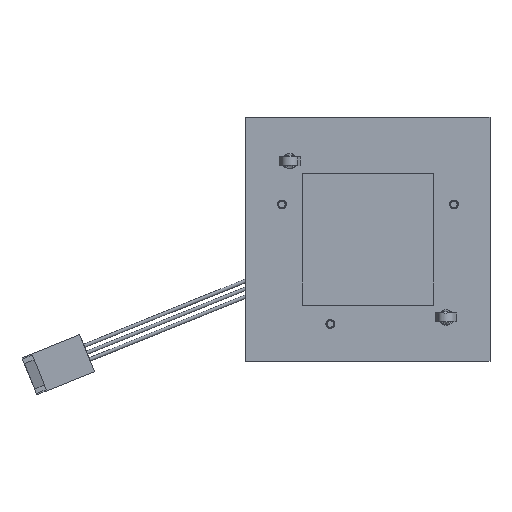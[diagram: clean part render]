
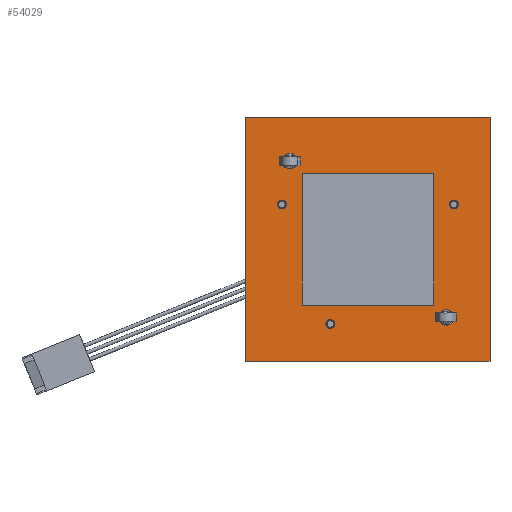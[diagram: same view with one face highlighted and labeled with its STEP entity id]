
A CAD part, front view. The second image highlights one B-rep face of the part: STEP entity #54029.
In plain terms, the highlighted planar face has unit normal (0, -1, 0).
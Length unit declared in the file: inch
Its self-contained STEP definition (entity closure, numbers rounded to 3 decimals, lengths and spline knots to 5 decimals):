
#878 = DIRECTION ( 'NONE',  ( 0., 0., -1. ) ) ;
#1346 = CARTESIAN_POINT ( 'NONE',  ( -0.30425, 0.01969, -0.71879 ) ) ;
#1906 = DIRECTION ( 'NONE',  ( -1., 0., 0. ) ) ;
#2449 = AXIS2_PLACEMENT_3D ( 'NONE', #28586, #33548, #34870 ) ;
#2630 = ORIENTED_EDGE ( 'NONE', *, *, #49613, .F. ) ;
#2792 = VERTEX_POINT ( 'NONE', #19129 ) ;
#3675 = CARTESIAN_POINT ( 'NONE',  ( 0.98425, 0.01969, -0.98425 ) ) ;
#4370 = VERTEX_POINT ( 'NONE', #56921 ) ;
#4502 = CARTESIAN_POINT ( 'NONE',  ( -0.62999, 0.01969, 0.567 ) ) ;
#4923 = ORIENTED_EDGE ( 'NONE', *, *, #31624, .F. ) ;
#4927 = VERTEX_POINT ( 'NONE', #59598 ) ;
#5665 = DIRECTION ( 'NONE',  ( 0., 0., -1. ) ) ;
#5788 = VERTEX_POINT ( 'NONE', #4502 ) ;
#6433 = EDGE_CURVE ( 'NONE', #42809, #5788, #54778, .T. ) ;
#6530 = LINE ( 'NONE', #26615, #54911 ) ;
#7468 = EDGE_CURVE ( 'NONE', #16857, #57358, #36514, .T. ) ;
#7509 = ORIENTED_EDGE ( 'NONE', *, *, #44292, .T. ) ;
#7557 = DIRECTION ( 'NONE',  ( 0., 0., -1. ) ) ;
#7705 = EDGE_LOOP ( 'NONE', ( #61300, #41726 ) ) ;
#8325 = CARTESIAN_POINT ( 'NONE',  ( 0.98425, 0.01969, -0.98425 ) ) ;
#9071 = CARTESIAN_POINT ( 'NONE',  ( 0.69356, 0.01969, 0.24478 ) ) ;
#9587 = EDGE_CURVE ( 'NONE', #23037, #4370, #19191, .T. ) ;
#9640 = LINE ( 'NONE', #3675, #50688 ) ;
#10183 = DIRECTION ( 'NONE',  ( 0., -1., 0. ) ) ;
#10281 = CIRCLE ( 'NONE', #42885, 0.06299 ) ;
#10856 = DIRECTION ( 'NONE',  ( 1., 0., 0. ) ) ;
#11209 = ORIENTED_EDGE ( 'NONE', *, *, #52772, .F. ) ;
#12686 = VECTOR ( 'NONE', #10856, 39.37008 ) ;
#13428 = LINE ( 'NONE', #23900, #16461 ) ;
#14004 = DIRECTION ( 'NONE',  ( 0., 0., 1. ) ) ;
#14468 = DIRECTION ( 'NONE',  ( 0., 0., -1. ) ) ;
#16076 = CIRCLE ( 'NONE', #46511, 0.03543 ) ;
#16461 = VECTOR ( 'NONE', #53564, 39.37008 ) ;
#16857 = VERTEX_POINT ( 'NONE', #60311 ) ;
#18362 = ORIENTED_EDGE ( 'NONE', *, *, #63177, .F. ) ;
#18655 = CARTESIAN_POINT ( 'NONE',  ( -0.30425, 0.01969, -0.68336 ) ) ;
#19129 = CARTESIAN_POINT ( 'NONE',  ( 0.98425, 0.01969, 0.98425 ) ) ;
#19191 = CIRCLE ( 'NONE', #55974, 0.03543 ) ;
#20863 = DIRECTION ( 'NONE',  ( 0., -1., 0. ) ) ;
#21651 = VERTEX_POINT ( 'NONE', #56057 ) ;
#22347 = ORIENTED_EDGE ( 'NONE', *, *, #7468, .T. ) ;
#23037 = VERTEX_POINT ( 'NONE', #45236 ) ;
#23259 = EDGE_CURVE ( 'NONE', #40638, #63113, #16076, .T. ) ;
#23271 = EDGE_LOOP ( 'NONE', ( #23756, #7509, #25429, #22347 ) ) ;
#23453 = DIRECTION ( 'NONE',  ( 0., -1., 0. ) ) ;
#23756 = ORIENTED_EDGE ( 'NONE', *, *, #43751, .T. ) ;
#23825 = FACE_BOUND ( 'NONE', #62682, .T. ) ;
#23900 = CARTESIAN_POINT ( 'NONE',  ( -0.98425, 0.01969, -0.98425 ) ) ;
#24658 = AXIS2_PLACEMENT_3D ( 'NONE', #49715, #10183, #39866 ) ;
#24947 = CARTESIAN_POINT ( 'NONE',  ( 0.62997, 0.01969, -0.62997 ) ) ;
#25429 = ORIENTED_EDGE ( 'NONE', *, *, #48931, .T. ) ;
#26615 = CARTESIAN_POINT ( 'NONE',  ( 0.98425, 0.01969, 0.98425 ) ) ;
#27767 = CIRCLE ( 'NONE', #24658, 0.03543 ) ;
#27999 = CIRCLE ( 'NONE', #53293, 0.06299 ) ;
#28020 = CARTESIAN_POINT ( 'NONE',  ( -0.30425, 0.01969, -0.68336 ) ) ;
#28442 = AXIS2_PLACEMENT_3D ( 'NONE', #57958, #36917, #7557 ) ;
#28449 = CARTESIAN_POINT ( 'NONE',  ( -0.62999, 0.01969, 0.69299 ) ) ;
#28586 = CARTESIAN_POINT ( 'NONE',  ( 0.69356, 0.01969, 0.28022 ) ) ;
#28817 = EDGE_LOOP ( 'NONE', ( #50627, #18362 ) ) ;
#29152 = CARTESIAN_POINT ( 'NONE',  ( -0.30425, 0.01969, -0.64793 ) ) ;
#29556 = VERTEX_POINT ( 'NONE', #43329 ) ;
#29730 = CARTESIAN_POINT ( 'NONE',  ( 0., 0.01969, 0. ) ) ;
#30352 = AXIS2_PLACEMENT_3D ( 'NONE', #29730, #20863, #5665 ) ;
#30448 = CIRCLE ( 'NONE', #43138, 0.06299 ) ;
#31624 = EDGE_CURVE ( 'NONE', #5788, #42809, #30448, .T. ) ;
#31957 = CARTESIAN_POINT ( 'NONE',  ( 0.69356, 0.01969, 0.28022 ) ) ;
#32164 = CARTESIAN_POINT ( 'NONE',  ( 0.69356, 0.01969, 0.31565 ) ) ;
#32277 = DIRECTION ( 'NONE',  ( 0., -1., 0. ) ) ;
#32778 = DIRECTION ( 'NONE',  ( 0., 0., -1. ) ) ;
#33378 = ORIENTED_EDGE ( 'NONE', *, *, #6433, .F. ) ;
#33548 = DIRECTION ( 'NONE',  ( 0., -1., 0. ) ) ;
#33927 = VERTEX_POINT ( 'NONE', #32164 ) ;
#34870 = DIRECTION ( 'NONE',  ( 0., 0., -1. ) ) ;
#35195 = DIRECTION ( 'NONE',  ( 0., -1., 0. ) ) ;
#35604 = CIRCLE ( 'NONE', #53298, 0.03543 ) ;
#35690 = PLANE ( 'NONE',  #30352 ) ;
#36514 = LINE ( 'NONE', #60934, #12686 ) ;
#36917 = DIRECTION ( 'NONE',  ( 0., -1., 0. ) ) ;
#39866 = DIRECTION ( 'NONE',  ( 0., 0., -1. ) ) ;
#40638 = VERTEX_POINT ( 'NONE', #29152 ) ;
#40672 = FACE_BOUND ( 'NONE', #28817, .T. ) ;
#41726 = ORIENTED_EDGE ( 'NONE', *, *, #23259, .F. ) ;
#41928 = DIRECTION ( 'NONE',  ( 0., 0., -1. ) ) ;
#42809 = VERTEX_POINT ( 'NONE', #28449 ) ;
#42885 = AXIS2_PLACEMENT_3D ( 'NONE', #24947, #50980, #878 ) ;
#43138 = AXIS2_PLACEMENT_3D ( 'NONE', #60221, #35195, #50653 ) ;
#43329 = CARTESIAN_POINT ( 'NONE',  ( 0.62997, 0.01969, -0.69296 ) ) ;
#43399 = DIRECTION ( 'NONE',  ( 0., -1., 0. ) ) ;
#43751 = EDGE_CURVE ( 'NONE', #57358, #2792, #9640, .T. ) ;
#43980 = FACE_BOUND ( 'NONE', #61410, .T. ) ;
#44292 = EDGE_CURVE ( 'NONE', #2792, #21651, #6530, .T. ) ;
#44503 = CARTESIAN_POINT ( 'NONE',  ( -0.69356, 0.01969, 0.28022 ) ) ;
#44586 = CIRCLE ( 'NONE', #2449, 0.03543 ) ;
#44651 = ORIENTED_EDGE ( 'NONE', *, *, #59220, .F. ) ;
#45236 = CARTESIAN_POINT ( 'NONE',  ( -0.69356, 0.01969, 0.24478 ) ) ;
#45375 = EDGE_CURVE ( 'NONE', #48899, #33927, #44586, .T. ) ;
#46511 = AXIS2_PLACEMENT_3D ( 'NONE', #18655, #43399, #32778 ) ;
#47359 = EDGE_LOOP ( 'NONE', ( #33378, #4923 ) ) ;
#48202 = DIRECTION ( 'NONE',  ( 0., 0., -1. ) ) ;
#48899 = VERTEX_POINT ( 'NONE', #9071 ) ;
#48909 = FACE_BOUND ( 'NONE', #47359, .T. ) ;
#48931 = EDGE_CURVE ( 'NONE', #21651, #16857, #13428, .T. ) ;
#49236 = EDGE_CURVE ( 'NONE', #63113, #40638, #63784, .T. ) ;
#49613 = EDGE_CURVE ( 'NONE', #29556, #4927, #27999, .T. ) ;
#49715 = CARTESIAN_POINT ( 'NONE',  ( -0.69356, 0.01969, 0.28022 ) ) ;
#49719 = DIRECTION ( 'NONE',  ( 0., -1., 0. ) ) ;
#50062 = AXIS2_PLACEMENT_3D ( 'NONE', #28020, #23453, #48202 ) ;
#50627 = ORIENTED_EDGE ( 'NONE', *, *, #45375, .F. ) ;
#50653 = DIRECTION ( 'NONE',  ( 0., 0., -1. ) ) ;
#50688 = VECTOR ( 'NONE', #14004, 39.37008 ) ;
#50980 = DIRECTION ( 'NONE',  ( 0., -1., 0. ) ) ;
#52772 = EDGE_CURVE ( 'NONE', #4927, #29556, #10281, .T. ) ;
#53293 = AXIS2_PLACEMENT_3D ( 'NONE', #59514, #60163, #14468 ) ;
#53298 = AXIS2_PLACEMENT_3D ( 'NONE', #31957, #32277, #41928 ) ;
#53564 = DIRECTION ( 'NONE',  ( 0., 0., -1. ) ) ;
#54029 = ADVANCED_FACE ( 'NONE', ( #48909, #23825, #43980, #64079, #40672, #60727 ), #35690, .T. ) ;
#54778 = CIRCLE ( 'NONE', #28442, 0.06299 ) ;
#54911 = VECTOR ( 'NONE', #1906, 39.37008 ) ;
#55974 = AXIS2_PLACEMENT_3D ( 'NONE', #44503, #49719, #59591 ) ;
#56057 = CARTESIAN_POINT ( 'NONE',  ( -0.98425, 0.01969, 0.98425 ) ) ;
#56921 = CARTESIAN_POINT ( 'NONE',  ( -0.69356, 0.01969, 0.31565 ) ) ;
#57358 = VERTEX_POINT ( 'NONE', #8325 ) ;
#57958 = CARTESIAN_POINT ( 'NONE',  ( -0.62999, 0.01969, 0.62999 ) ) ;
#59220 = EDGE_CURVE ( 'NONE', #4370, #23037, #27767, .T. ) ;
#59514 = CARTESIAN_POINT ( 'NONE',  ( 0.62997, 0.01969, -0.62997 ) ) ;
#59591 = DIRECTION ( 'NONE',  ( 0., 0., -1. ) ) ;
#59598 = CARTESIAN_POINT ( 'NONE',  ( 0.62997, 0.01969, -0.56698 ) ) ;
#60163 = DIRECTION ( 'NONE',  ( 0., -1., 0. ) ) ;
#60221 = CARTESIAN_POINT ( 'NONE',  ( -0.62999, 0.01969, 0.62999 ) ) ;
#60311 = CARTESIAN_POINT ( 'NONE',  ( -0.98425, 0.01969, -0.98425 ) ) ;
#60727 = FACE_OUTER_BOUND ( 'NONE', #23271, .T. ) ;
#60934 = CARTESIAN_POINT ( 'NONE',  ( 0.98425, 0.01969, -0.98425 ) ) ;
#61300 = ORIENTED_EDGE ( 'NONE', *, *, #49236, .F. ) ;
#61410 = EDGE_LOOP ( 'NONE', ( #63664, #44651 ) ) ;
#62682 = EDGE_LOOP ( 'NONE', ( #11209, #2630 ) ) ;
#63113 = VERTEX_POINT ( 'NONE', #1346 ) ;
#63177 = EDGE_CURVE ( 'NONE', #33927, #48899, #35604, .T. ) ;
#63664 = ORIENTED_EDGE ( 'NONE', *, *, #9587, .F. ) ;
#63784 = CIRCLE ( 'NONE', #50062, 0.03543 ) ;
#64079 = FACE_BOUND ( 'NONE', #7705, .T. ) ;
